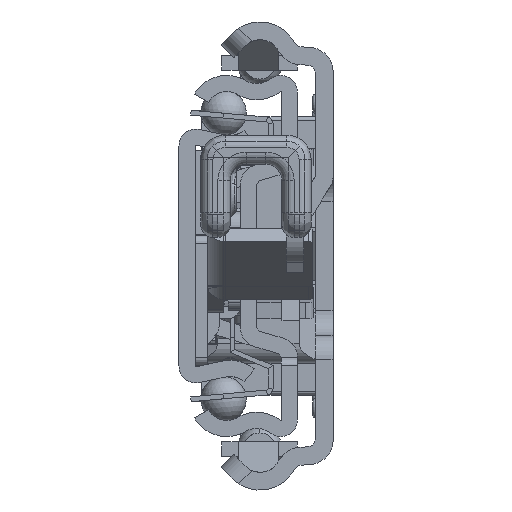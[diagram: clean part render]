
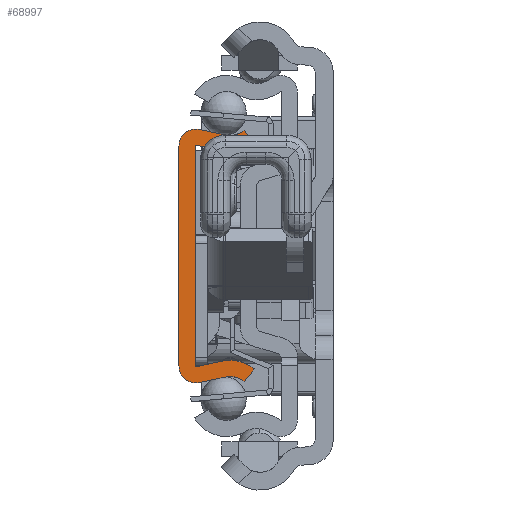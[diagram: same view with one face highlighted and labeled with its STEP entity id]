
A CAD part, left-side view. The second image highlights one B-rep face of the part: STEP entity #68997.
In plain terms, the highlighted planar face has unit normal (-1, 0, 0).
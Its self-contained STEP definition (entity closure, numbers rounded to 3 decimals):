
#63779=CARTESIAN_POINT('',(0.,-6.29,-17.65));
#63780=DIRECTION('',(-1.,0.,0.));
#63781=DIRECTION('',(0.,-0.629,0.778));
#63782=AXIS2_PLACEMENT_3D('',#63779,#63780,#63781);
#63784=DIRECTION('',(0.,0.977,-0.213));
#63785=VECTOR('',#63784,3.218);
#63786=CARTESIAN_POINT('',(0.,-5.692,-14.915));
#63787=LINE('',#63786,#63785);
#63788=CARTESIAN_POINT('',(0.,-2.1,-13.55));
#63789=DIRECTION('',(1.,0.,0.));
#63790=DIRECTION('',(0.,-0.213,-0.977));
#63791=AXIS2_PLACEMENT_3D('',#63788,#63789,#63790);
#63793=DIRECTION('',(0.,0.,1.));
#63794=VECTOR('',#63793,27.1);
#63795=CARTESIAN_POINT('',(0.,0.,-13.55));
#63796=LINE('',#63795,#63794);
#63797=CARTESIAN_POINT('',(0.,-2.1,13.55));
#63798=DIRECTION('',(1.,0.,0.));
#63799=DIRECTION('',(0.,1.,0.));
#63800=AXIS2_PLACEMENT_3D('',#63797,#63798,#63799);
#63802=DIRECTION('',(0.,-0.977,-0.213));
#63803=VECTOR('',#63802,3.218);
#63804=CARTESIAN_POINT('',(0.,-2.548,15.602));
#63805=LINE('',#63804,#63803);
#63806=CARTESIAN_POINT('',(0.,-6.29,17.65));
#63807=DIRECTION('',(-1.,0.,0.));
#63808=DIRECTION('',(0.,0.213,-0.977));
#63809=AXIS2_PLACEMENT_3D('',#63806,#63807,#63808);
#63811=DIRECTION('',(0.,-0.629,-0.778));
#63812=VECTOR('',#63811,2.);
#63813=CARTESIAN_POINT('',(0.,-8.05,15.472));
#63814=LINE('',#63813,#63812);
#63815=CARTESIAN_POINT('',(0.,-6.29,17.65));
#63816=DIRECTION('',(1.,0.,0.));
#63817=DIRECTION('',(0.,-0.629,-0.778));
#63818=AXIS2_PLACEMENT_3D('',#63815,#63816,#63817);
#63820=DIRECTION('',(0.,0.977,0.213));
#63821=VECTOR('',#63820,3.218);
#63822=CARTESIAN_POINT('',(0.,-5.265,12.961));
#63823=LINE('',#63822,#63821);
#63824=CARTESIAN_POINT('',(0.,-2.1,13.55));
#63825=DIRECTION('',(-1.,0.,0.));
#63826=DIRECTION('',(0.,-0.213,0.977));
#63827=AXIS2_PLACEMENT_3D('',#63824,#63825,#63826);
#63829=DIRECTION('',(0.,0.,-1.));
#63830=VECTOR('',#63829,27.1);
#63831=CARTESIAN_POINT('',(0.,-2.,13.55));
#63832=LINE('',#63831,#63830);
#63833=CARTESIAN_POINT('',(0.,-2.1,-13.55));
#63834=DIRECTION('',(-1.,0.,0.));
#63835=DIRECTION('',(0.,1.,0.));
#63836=AXIS2_PLACEMENT_3D('',#63833,#63834,#63835);
#63838=DIRECTION('',(0.,-0.977,0.213));
#63839=VECTOR('',#63838,3.218);
#63840=CARTESIAN_POINT('',(0.,-2.121,-13.648));
#63841=LINE('',#63840,#63839);
#63842=CARTESIAN_POINT('',(0.,-6.29,-17.65));
#63843=DIRECTION('',(1.,0.,0.));
#63844=DIRECTION('',(0.,0.213,0.977));
#63845=AXIS2_PLACEMENT_3D('',#63842,#63843,#63844);
#63847=DIRECTION('',(0.,0.629,-0.778));
#63848=VECTOR('',#63847,2.);
#63849=CARTESIAN_POINT('',(0.,-9.307,-13.917));
#63850=LINE('',#63849,#63848);
#67491=CARTESIAN_POINT('',(0.,-8.05,-15.472));
#67492=CARTESIAN_POINT('',(0.,-5.692,-14.915));
#67493=VERTEX_POINT('',#67491);
#67494=VERTEX_POINT('',#67492);
#67495=CARTESIAN_POINT('',(0.,-2.548,-15.602));
#67496=VERTEX_POINT('',#67495);
#67497=CARTESIAN_POINT('',(0.,0.,-13.55));
#67498=VERTEX_POINT('',#67497);
#67499=CARTESIAN_POINT('',(0.,0.,13.55));
#67500=VERTEX_POINT('',#67499);
#67501=CARTESIAN_POINT('',(0.,-2.548,15.602));
#67502=VERTEX_POINT('',#67501);
#67503=CARTESIAN_POINT('',(0.,-5.692,14.915));
#67504=VERTEX_POINT('',#67503);
#67505=CARTESIAN_POINT('',(0.,-8.05,15.472));
#67506=VERTEX_POINT('',#67505);
#67507=CARTESIAN_POINT('',(0.,-9.307,13.917));
#67508=VERTEX_POINT('',#67507);
#67509=CARTESIAN_POINT('',(0.,-5.265,12.961));
#67510=VERTEX_POINT('',#67509);
#67511=CARTESIAN_POINT('',(0.,-2.121,13.648));
#67512=VERTEX_POINT('',#67511);
#67513=CARTESIAN_POINT('',(0.,-2.,13.55));
#67514=VERTEX_POINT('',#67513);
#67515=CARTESIAN_POINT('',(0.,-2.,-13.55));
#67516=VERTEX_POINT('',#67515);
#67517=CARTESIAN_POINT('',(0.,-2.121,-13.648));
#67518=VERTEX_POINT('',#67517);
#67519=CARTESIAN_POINT('',(0.,-5.265,-12.961));
#67520=VERTEX_POINT('',#67519);
#67521=CARTESIAN_POINT('',(0.,-9.307,-13.917));
#67522=VERTEX_POINT('',#67521);
#68959=CARTESIAN_POINT('',(0.,0.,0.));
#68960=DIRECTION('',(1.,0.,0.));
#68961=DIRECTION('',(0.,-1.,0.));
#68962=AXIS2_PLACEMENT_3D('',#68959,#68960,#68961);
#68963=PLANE('',#68962);
#68965=ORIENTED_EDGE('',*,*,#68964,.T.);
#68967=ORIENTED_EDGE('',*,*,#68966,.T.);
#68969=ORIENTED_EDGE('',*,*,#68968,.T.);
#68970=ORIENTED_EDGE('',*,*,#68547,.T.);
#68972=ORIENTED_EDGE('',*,*,#68971,.T.);
#68974=ORIENTED_EDGE('',*,*,#68973,.T.);
#68976=ORIENTED_EDGE('',*,*,#68975,.T.);
#68978=ORIENTED_EDGE('',*,*,#68977,.T.);
#68980=ORIENTED_EDGE('',*,*,#68979,.T.);
#68982=ORIENTED_EDGE('',*,*,#68981,.T.);
#68984=ORIENTED_EDGE('',*,*,#68983,.T.);
#68986=ORIENTED_EDGE('',*,*,#68985,.T.);
#68988=ORIENTED_EDGE('',*,*,#68987,.T.);
#68990=ORIENTED_EDGE('',*,*,#68989,.T.);
#68992=ORIENTED_EDGE('',*,*,#68991,.T.);
#68994=ORIENTED_EDGE('',*,*,#68993,.T.);
#68995=EDGE_LOOP('',(#68965,#68967,#68969,#68970,#68972,#68974,#68976,#68978,
#68980,#68982,#68984,#68986,#68988,#68990,#68992,#68994));
#68996=FACE_OUTER_BOUND('',#68995,.F.);
#63783=CIRCLE('',#63782,2.8);
#63792=CIRCLE('',#63791,2.1);
#63801=CIRCLE('',#63800,2.1);
#63810=CIRCLE('',#63809,2.8);
#63819=CIRCLE('',#63818,4.8);
#63828=CIRCLE('',#63827,0.1);
#63837=CIRCLE('',#63836,0.1);
#63846=CIRCLE('',#63845,4.8);
#68547=EDGE_CURVE('',#67498,#67500,#63796,.T.);
#68964=EDGE_CURVE('',#67493,#67494,#63783,.T.);
#68966=EDGE_CURVE('',#67494,#67496,#63787,.T.);
#68968=EDGE_CURVE('',#67496,#67498,#63792,.T.);
#68971=EDGE_CURVE('',#67500,#67502,#63801,.T.);
#68973=EDGE_CURVE('',#67502,#67504,#63805,.T.);
#68975=EDGE_CURVE('',#67504,#67506,#63810,.T.);
#68977=EDGE_CURVE('',#67506,#67508,#63814,.T.);
#68979=EDGE_CURVE('',#67508,#67510,#63819,.T.);
#68981=EDGE_CURVE('',#67510,#67512,#63823,.T.);
#68983=EDGE_CURVE('',#67512,#67514,#63828,.T.);
#68985=EDGE_CURVE('',#67514,#67516,#63832,.T.);
#68987=EDGE_CURVE('',#67516,#67518,#63837,.T.);
#68989=EDGE_CURVE('',#67518,#67520,#63841,.T.);
#68991=EDGE_CURVE('',#67520,#67522,#63846,.T.);
#68993=EDGE_CURVE('',#67522,#67493,#63850,.T.);
#68997=ADVANCED_FACE('',(#68996),#68963,.F.);
